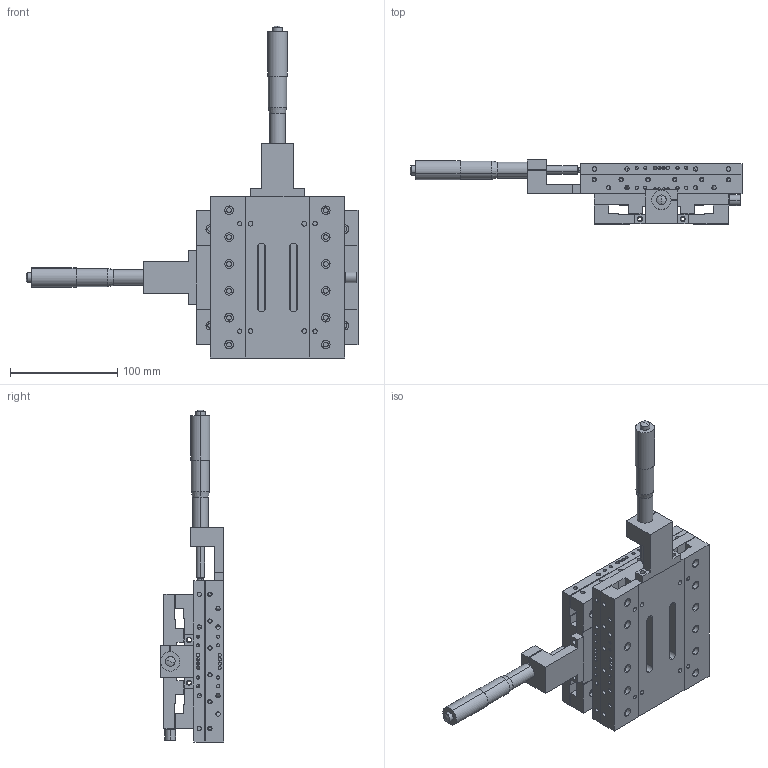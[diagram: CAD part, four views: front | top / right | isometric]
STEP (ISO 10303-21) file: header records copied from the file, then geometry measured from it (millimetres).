
FILE_DESCRIPTION (( 'STEP AP203' ), '1' );
FILE_NAME ('M2-238(0)-C1.STEP', '2014-08-13T21:53:47', ( 'Registered User' ), ( 'Microsoft Corporation' ), 'SwSTEP 2.0', 'SolidWorks 2012', '' );
FILE_SCHEMA (( 'CONFIG_CONTROL_DESIGN' ));
Length unit declared in the file: millimetre
Products named in the file (3): M2-238(0)-C1; M1-238-C1(2); M1-238-C1
Assembly tree (2 placements, depth 2):
  M2-238(0)-C1
    M1-238-C1
    M1-238-C1(2)
Bounding box: 309 x 59.5 x 309 mm (x, y, z)
Surface area: 244890.1 mm2 (no closed solid volume)
Topology: 0 solids, 18 shells, 610 faces, 1868 edges, 1306 vertices
Faces by surface type: cylinder 428, plane 170, cone 8, sphere 4
Entity records: 22223 total; most frequent: DIRECTION 4130, CARTESIAN_POINT 4021, ORIENTED_EDGE 3206, EDGE_CURVE 1868, AXIS2_PLACEMENT_3D 1667, VERTEX_POINT 1306, CIRCLE 1052, EDGE_LOOP 914
